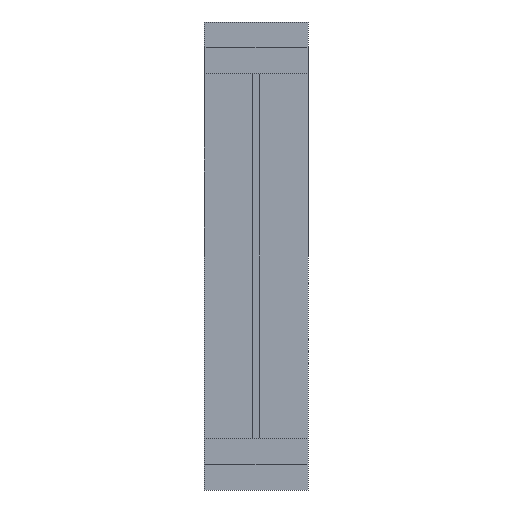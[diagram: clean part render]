
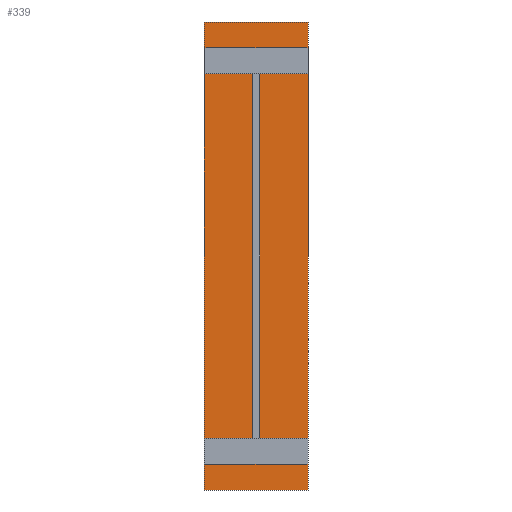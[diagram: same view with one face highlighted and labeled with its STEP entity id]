
A CAD part, front view. The second image highlights one B-rep face of the part: STEP entity #339.
In plain terms, the highlighted planar face has unit normal (0, -1, 0).
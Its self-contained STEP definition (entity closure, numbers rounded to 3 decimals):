
#4 = DIRECTION ( 'NONE',  ( 0., 0., -1. ) ) ;
#15 = CARTESIAN_POINT ( 'NONE',  ( -200., 205., 100. ) ) ;
#26 = CARTESIAN_POINT ( 'NONE',  ( -190., 205., 1500. ) ) ;
#28 = ORIENTED_EDGE ( 'NONE', *, *, #702, .F. ) ;
#36 = ORIENTED_EDGE ( 'NONE', *, *, #90, .F. ) ;
#49 = LINE ( 'NONE', #603, #1748 ) ;
#74 = VERTEX_POINT ( 'NONE', #542 ) ;
#77 = EDGE_CURVE ( 'NONE', #1079, #646, #1081, .T. ) ;
#84 = ORIENTED_EDGE ( 'NONE', *, *, #919, .F. ) ;
#90 = EDGE_CURVE ( 'NONE', #1690, #1379, #1745, .T. ) ;
#116 = EDGE_CURVE ( 'NONE', #1379, #678, #1232, .T. ) ;
#135 = CARTESIAN_POINT ( 'NONE',  ( -190., 205., 100. ) ) ;
#154 = LINE ( 'NONE', #1614, #284 ) ;
#157 = LINE ( 'NONE', #26, #1067 ) ;
#189 = VECTOR ( 'NONE', #749, 1000. ) ;
#191 = ORIENTED_EDGE ( 'NONE', *, *, #754, .F. ) ;
#192 = VECTOR ( 'NONE', #864, 1000. ) ;
#211 = CARTESIAN_POINT ( 'NONE',  ( -190., 205., 1500. ) ) ;
#227 = ORIENTED_EDGE ( 'NONE', *, *, #333, .F. ) ;
#233 = CARTESIAN_POINT ( 'NONE',  ( -190., 205., 100. ) ) ;
#247 = DIRECTION ( 'NONE',  ( -1., 0., 0. ) ) ;
#281 = VERTEX_POINT ( 'NONE', #1269 ) ;
#284 = VECTOR ( 'NONE', #4, 1000. ) ;
#288 = VERTEX_POINT ( 'NONE', #966 ) ;
#289 = EDGE_CURVE ( 'NONE', #1409, #281, #1524, .T. ) ;
#292 = EDGE_CURVE ( 'NONE', #74, #1409, #1676, .T. ) ;
#294 = CARTESIAN_POINT ( 'NONE',  ( 200., 205., -100. ) ) ;
#309 = ORIENTED_EDGE ( 'NONE', *, *, #1487, .F. ) ;
#331 = CARTESIAN_POINT ( 'NONE',  ( 200., 205., 0. ) ) ;
#333 = EDGE_CURVE ( 'NONE', #369, #999, #1054, .T. ) ;
#339 = ADVANCED_FACE ( 'NONE', ( #788 ), #1317, .F. ) ;
#355 = ORIENTED_EDGE ( 'NONE', *, *, #116, .F. ) ;
#369 = VERTEX_POINT ( 'NONE', #1021 ) ;
#375 = ORIENTED_EDGE ( 'NONE', *, *, #292, .F. ) ;
#378 = CARTESIAN_POINT ( 'NONE',  ( -200., 205., 1700. ) ) ;
#387 = ORIENTED_EDGE ( 'NONE', *, *, #1275, .F. ) ;
#388 = CARTESIAN_POINT ( 'NONE',  ( -190., 205., 0. ) ) ;
#391 = VECTOR ( 'NONE', #574, 1000. ) ;
#398 = LINE ( 'NONE', #1468, #400 ) ;
#399 = VERTEX_POINT ( 'NONE', #1444 ) ;
#400 = VECTOR ( 'NONE', #411, 1000. ) ;
#404 = ORIENTED_EDGE ( 'NONE', *, *, #1215, .F. ) ;
#411 = DIRECTION ( 'NONE',  ( -1., 0., 0. ) ) ;
#422 = CARTESIAN_POINT ( 'NONE',  ( 190., 205., 1500. ) ) ;
#431 = CARTESIAN_POINT ( 'NONE',  ( -200., 205., 0. ) ) ;
#434 = CARTESIAN_POINT ( 'NONE',  ( -200., 205., 1500. ) ) ;
#441 = VERTEX_POINT ( 'NONE', #1072 ) ;
#458 = VERTEX_POINT ( 'NONE', #135 ) ;
#502 = DIRECTION ( 'NONE',  ( 0., 0., 1. ) ) ;
#542 = CARTESIAN_POINT ( 'NONE',  ( 190., 205., 1600. ) ) ;
#561 = DIRECTION ( 'NONE',  ( 0., 0., -1. ) ) ;
#574 = DIRECTION ( 'NONE',  ( 1., 0., 0. ) ) ;
#603 = CARTESIAN_POINT ( 'NONE',  ( 200., 205., 1700. ) ) ;
#608 = DIRECTION ( 'NONE',  ( 1., 0., 0. ) ) ;
#620 = ORIENTED_EDGE ( 'NONE', *, *, #77, .F. ) ;
#623 = VECTOR ( 'NONE', #1498, 1000. ) ;
#625 = VECTOR ( 'NONE', #649, 1000. ) ;
#638 = LINE ( 'NONE', #378, #767 ) ;
#641 = DIRECTION ( 'NONE',  ( 0., 0., -1. ) ) ;
#646 = VERTEX_POINT ( 'NONE', #1582 ) ;
#649 = DIRECTION ( 'NONE',  ( 0., 0., 1. ) ) ;
#675 = EDGE_CURVE ( 'NONE', #441, #1075, #638, .T. ) ;
#676 = ORIENTED_EDGE ( 'NONE', *, *, #1068, .F. ) ;
#678 = VERTEX_POINT ( 'NONE', #1449 ) ;
#684 = CARTESIAN_POINT ( 'NONE',  ( -200., 205., 1700. ) ) ;
#702 = EDGE_CURVE ( 'NONE', #1128, #441, #398, .T. ) ;
#737 = VECTOR ( 'NONE', #1536, 1000. ) ;
#738 = CARTESIAN_POINT ( 'NONE',  ( 200., 205., 1600. ) ) ;
#749 = DIRECTION ( 'NONE',  ( 0., 0., -1. ) ) ;
#754 = EDGE_CURVE ( 'NONE', #646, #940, #1254, .T. ) ;
#759 = DIRECTION ( 'NONE',  ( -1., 0., 0. ) ) ;
#767 = VECTOR ( 'NONE', #1717, 1000. ) ;
#778 = LINE ( 'NONE', #928, #1518 ) ;
#788 = FACE_OUTER_BOUND ( 'NONE', #1437, .T. ) ;
#805 = CARTESIAN_POINT ( 'NONE',  ( -200., 205., -100. ) ) ;
#822 = CARTESIAN_POINT ( 'NONE',  ( 200., 205., 100. ) ) ;
#836 = EDGE_CURVE ( 'NONE', #678, #458, #1443, .T. ) ;
#841 = CARTESIAN_POINT ( 'NONE',  ( 190., 205., 100. ) ) ;
#842 = LINE ( 'NONE', #1245, #1196 ) ;
#855 = CARTESIAN_POINT ( 'NONE',  ( 200., 205., 0. ) ) ;
#862 = CARTESIAN_POINT ( 'NONE',  ( -190., 205., 1600. ) ) ;
#864 = DIRECTION ( 'NONE',  ( 1., 0., 0. ) ) ;
#874 = ORIENTED_EDGE ( 'NONE', *, *, #950, .F. ) ;
#877 = ORIENTED_EDGE ( 'NONE', *, *, #289, .F. ) ;
#886 = EDGE_CURVE ( 'NONE', #399, #1079, #1357, .T. ) ;
#888 = ORIENTED_EDGE ( 'NONE', *, *, #886, .F. ) ;
#919 = EDGE_CURVE ( 'NONE', #281, #399, #842, .T. ) ;
#928 = CARTESIAN_POINT ( 'NONE',  ( 200., 205., -100. ) ) ;
#938 = CARTESIAN_POINT ( 'NONE',  ( 200., 205., 1600. ) ) ;
#940 = VERTEX_POINT ( 'NONE', #855 ) ;
#950 = EDGE_CURVE ( 'NONE', #1075, #288, #49, .T. ) ;
#966 = CARTESIAN_POINT ( 'NONE',  ( 200., 205., 1700. ) ) ;
#988 = LINE ( 'NONE', #862, #737 ) ;
#999 = VERTEX_POINT ( 'NONE', #434 ) ;
#1021 = CARTESIAN_POINT ( 'NONE',  ( -200., 205., 100. ) ) ;
#1041 = VERTEX_POINT ( 'NONE', #938 ) ;
#1053 = ORIENTED_EDGE ( 'NONE', *, *, #675, .F. ) ;
#1054 = LINE ( 'NONE', #1440, #625 ) ;
#1055 = EDGE_CURVE ( 'NONE', #1674, #1690, #1244, .T. ) ;
#1067 = VECTOR ( 'NONE', #1652, 1000. ) ;
#1068 = EDGE_CURVE ( 'NONE', #999, #1184, #157, .T. ) ;
#1072 = CARTESIAN_POINT ( 'NONE',  ( -200., 205., 1600. ) ) ;
#1075 = VERTEX_POINT ( 'NONE', #684 ) ;
#1079 = VERTEX_POINT ( 'NONE', #841 ) ;
#1081 = LINE ( 'NONE', #1213, #1380 ) ;
#1128 = VERTEX_POINT ( 'NONE', #1667 ) ;
#1130 = DIRECTION ( 'NONE',  ( 1., 0., 0. ) ) ;
#1165 = DIRECTION ( 'NONE',  ( 0., 1., 0. ) ) ;
#1169 = EDGE_CURVE ( 'NONE', #1184, #1128, #988, .T. ) ;
#1184 = VERTEX_POINT ( 'NONE', #211 ) ;
#1196 = VECTOR ( 'NONE', #1659, 1000. ) ;
#1213 = CARTESIAN_POINT ( 'NONE',  ( 190., 205., 100. ) ) ;
#1215 = EDGE_CURVE ( 'NONE', #1041, #74, #1251, .T. ) ;
#1218 = CARTESIAN_POINT ( 'NONE',  ( 190., 205., 1600. ) ) ;
#1232 = LINE ( 'NONE', #388, #391 ) ;
#1244 = LINE ( 'NONE', #294, #1267 ) ;
#1245 = CARTESIAN_POINT ( 'NONE',  ( 200., 205., 1500. ) ) ;
#1251 = LINE ( 'NONE', #738, #1700 ) ;
#1254 = LINE ( 'NONE', #331, #192 ) ;
#1256 = VECTOR ( 'NONE', #247, 1000. ) ;
#1267 = VECTOR ( 'NONE', #1364, 1000. ) ;
#1269 = CARTESIAN_POINT ( 'NONE',  ( 200., 205., 1500. ) ) ;
#1275 = EDGE_CURVE ( 'NONE', #940, #1674, #778, .T. ) ;
#1282 = ORIENTED_EDGE ( 'NONE', *, *, #836, .F. ) ;
#1285 = ORIENTED_EDGE ( 'NONE', *, *, #1169, .F. ) ;
#1293 = AXIS2_PLACEMENT_3D ( 'NONE', #1451, #1165, #502 ) ;
#1316 = ORIENTED_EDGE ( 'NONE', *, *, #1453, .F. ) ;
#1317 = PLANE ( 'NONE',  #1293 ) ;
#1320 = VECTOR ( 'NONE', #1563, 1000. ) ;
#1357 = LINE ( 'NONE', #822, #1256 ) ;
#1362 = LINE ( 'NONE', #15, #1465 ) ;
#1364 = DIRECTION ( 'NONE',  ( -1., 0., 0. ) ) ;
#1375 = ORIENTED_EDGE ( 'NONE', *, *, #1055, .F. ) ;
#1379 = VERTEX_POINT ( 'NONE', #1499 ) ;
#1380 = VECTOR ( 'NONE', #561, 1000. ) ;
#1409 = VERTEX_POINT ( 'NONE', #422 ) ;
#1437 = EDGE_LOOP ( 'NONE', ( #36, #1375, #387, #191, #620, #888, #84, #877, #375, #404, #1316, #874, #1053, #28, #1285, #676, #227, #309, #1282, #355 ) ) ;
#1440 = CARTESIAN_POINT ( 'NONE',  ( -200., 205., 1500. ) ) ;
#1443 = LINE ( 'NONE', #233, #1320 ) ;
#1444 = CARTESIAN_POINT ( 'NONE',  ( 200., 205., 100. ) ) ;
#1449 = CARTESIAN_POINT ( 'NONE',  ( -190., 205., 0. ) ) ;
#1451 = CARTESIAN_POINT ( 'NONE',  ( 0., 205., 0. ) ) ;
#1453 = EDGE_CURVE ( 'NONE', #288, #1041, #154, .T. ) ;
#1465 = VECTOR ( 'NONE', #1641, 1000. ) ;
#1468 = CARTESIAN_POINT ( 'NONE',  ( -200., 205., 1600. ) ) ;
#1487 = EDGE_CURVE ( 'NONE', #458, #369, #1362, .T. ) ;
#1498 = DIRECTION ( 'NONE',  ( 0., 0., 1. ) ) ;
#1499 = CARTESIAN_POINT ( 'NONE',  ( -200., 205., 0. ) ) ;
#1518 = VECTOR ( 'NONE', #641, 1000. ) ;
#1524 = LINE ( 'NONE', #1644, #1696 ) ;
#1536 = DIRECTION ( 'NONE',  ( 0., 0., 1. ) ) ;
#1563 = DIRECTION ( 'NONE',  ( 0., 0., 1. ) ) ;
#1582 = CARTESIAN_POINT ( 'NONE',  ( 190., 205., 0. ) ) ;
#1614 = CARTESIAN_POINT ( 'NONE',  ( 200., 205., 1700. ) ) ;
#1641 = DIRECTION ( 'NONE',  ( -1., 0., 0. ) ) ;
#1644 = CARTESIAN_POINT ( 'NONE',  ( 190., 205., 1500. ) ) ;
#1652 = DIRECTION ( 'NONE',  ( 1., 0., 0. ) ) ;
#1659 = DIRECTION ( 'NONE',  ( 0., 0., -1. ) ) ;
#1667 = CARTESIAN_POINT ( 'NONE',  ( -190., 205., 1600. ) ) ;
#1674 = VERTEX_POINT ( 'NONE', #1688 ) ;
#1676 = LINE ( 'NONE', #1218, #189 ) ;
#1688 = CARTESIAN_POINT ( 'NONE',  ( 200., 205., -100. ) ) ;
#1690 = VERTEX_POINT ( 'NONE', #805 ) ;
#1696 = VECTOR ( 'NONE', #608, 1000. ) ;
#1700 = VECTOR ( 'NONE', #759, 1000. ) ;
#1717 = DIRECTION ( 'NONE',  ( 0., 0., 1. ) ) ;
#1745 = LINE ( 'NONE', #431, #623 ) ;
#1748 = VECTOR ( 'NONE', #1130, 1000. ) ;
